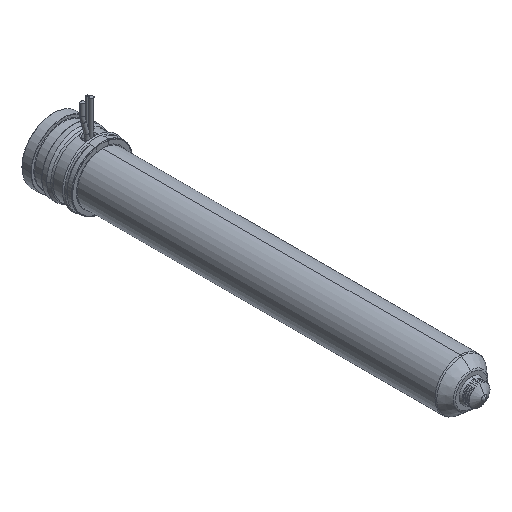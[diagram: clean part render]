
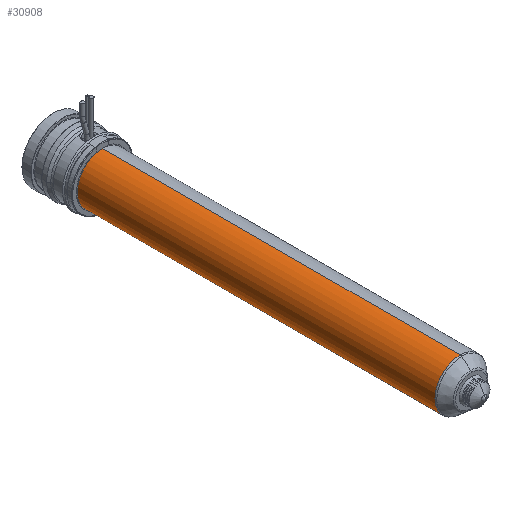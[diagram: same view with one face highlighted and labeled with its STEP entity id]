
A CAD part, isometric view. The second image highlights one B-rep face of the part: STEP entity #30908.
In plain terms, the highlighted cylindrical face has radius 12 mm (diameter 24 mm), a partial arc.
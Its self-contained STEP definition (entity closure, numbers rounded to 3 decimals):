
#30393=CARTESIAN_POINT('',(0.,-24.,0.));
#30394=DIRECTION('',(0.,1.,0.));
#30395=DIRECTION('',(0.,0.,-1.));
#30396=AXIS2_PLACEMENT_3D('',#30393,#30394,#30395);
#30401=DIRECTION('',(0.,1.,0.));
#30402=VECTOR('',#30401,169.736);
#30403=CARTESIAN_POINT('',(0.,-193.736,12.));
#30404=LINE('',#30403,#30402);
#30416=DIRECTION('',(0.,1.,0.));
#30417=VECTOR('',#30416,169.736);
#30418=CARTESIAN_POINT('',(0.,-193.736,-12.));
#30419=LINE('',#30418,#30417);
#30447=CARTESIAN_POINT('',(0.,-193.736,0.));
#30448=DIRECTION('',(0.,-1.,0.));
#30449=DIRECTION('',(0.,0.,1.));
#30450=AXIS2_PLACEMENT_3D('',#30447,#30448,#30449);
#30777=CARTESIAN_POINT('',(0.,-193.736,12.));
#30778=CARTESIAN_POINT('',(0.,-24.,12.));
#30779=VERTEX_POINT('',#30777);
#30780=VERTEX_POINT('',#30778);
#30781=CARTESIAN_POINT('',(0.,-193.736,-12.));
#30782=CARTESIAN_POINT('',(0.,-24.,-12.));
#30783=VERTEX_POINT('',#30781);
#30784=VERTEX_POINT('',#30782);
#30894=CARTESIAN_POINT('',(0.,-10.7,0.));
#30895=DIRECTION('',(0.,-1.,0.));
#30896=DIRECTION('',(0.,0.,1.));
#30897=AXIS2_PLACEMENT_3D('',#30894,#30895,#30896);
#30898=CYLINDRICAL_SURFACE('',#30897,12.);
#30900=ORIENTED_EDGE('',*,*,#30899,.F.);
#30902=ORIENTED_EDGE('',*,*,#30901,.T.);
#30904=ORIENTED_EDGE('',*,*,#30903,.T.);
#30905=ORIENTED_EDGE('',*,*,#30887,.T.);
#30906=EDGE_LOOP('',(#30900,#30902,#30904,#30905));
#30907=FACE_OUTER_BOUND('',#30906,.F.);
#30908=ADVANCED_FACE('',(#30907),#30898,.T.);
#30397=CIRCLE('',#30396,12.);
#30451=CIRCLE('',#30450,12.);
#30887=EDGE_CURVE('',#30784,#30780,#30397,.T.);
#30899=EDGE_CURVE('',#30779,#30780,#30404,.T.);
#30901=EDGE_CURVE('',#30779,#30783,#30451,.T.);
#30903=EDGE_CURVE('',#30783,#30784,#30419,.T.);
